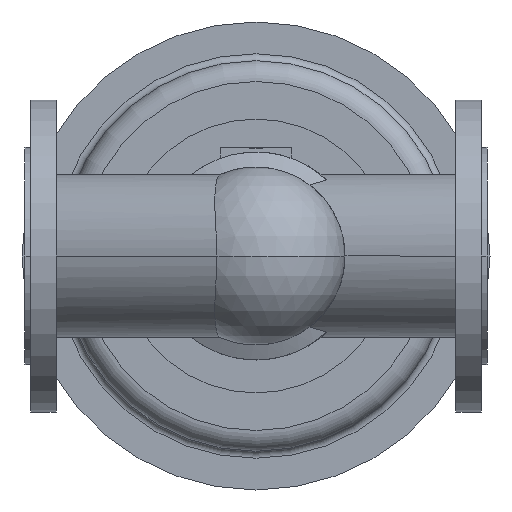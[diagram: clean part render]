
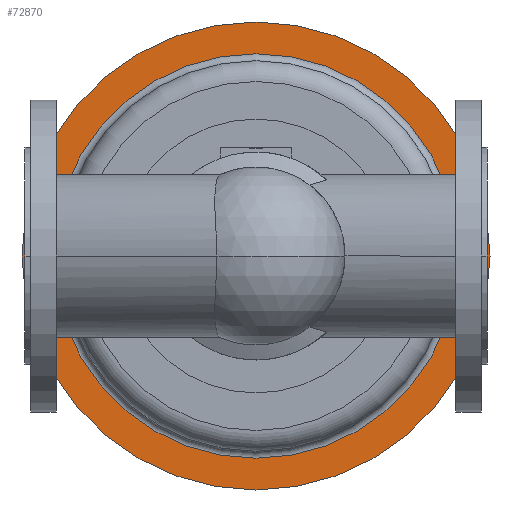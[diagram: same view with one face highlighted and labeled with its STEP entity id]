
A CAD part, front view. The second image highlights one B-rep face of the part: STEP entity #72870.
In plain terms, the highlighted planar face has unit normal (0, -1, 0).
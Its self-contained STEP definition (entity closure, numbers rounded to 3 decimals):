
#57340=CARTESIAN_POINT('',(-2.5,950.2,0.));
#57350=VERTEX_POINT('',#57340);
#57380=CARTESIAN_POINT('',(200.,950.2,0.));
#57390=DIRECTION('',(0.,1.,0.));
#57400=DIRECTION('',(1.,0.,0.));
#57410=AXIS2_PLACEMENT_3D('',#57380,#57390,#57400);
#57420=CIRCLE('',#57410,202.5);
#57430=CARTESIAN_POINT('',(402.5,950.2,0.));
#57440=VERTEX_POINT('',#57430);
#57450=EDGE_CURVE('',#57440,#57350,#57420,.T.);
#57840=CARTESIAN_POINT('',(375.,950.2,0.));
#57850=VERTEX_POINT('',#57840);
#57880=CARTESIAN_POINT('',(200.,950.2,0.));
#57890=DIRECTION('',(0.,1.,0.));
#57900=DIRECTION('',(1.,0.,0.));
#57910=AXIS2_PLACEMENT_3D('',#57880,#57890,#57900);
#57920=CIRCLE('',#57910,175.);
#57930=CARTESIAN_POINT('',(25.,950.2,0.));
#57940=VERTEX_POINT('',#57930);
#57950=EDGE_CURVE('',#57850,#57940,#57920,.T.);
#72720=CARTESIAN_POINT('',(388.75,950.2,0.));
#72730=DIRECTION('',(0.,-1.,0.));
#72740=DIRECTION('',(-1.,0.,0.));
#72750=AXIS2_PLACEMENT_3D('',#72720,#72730,#72740);
#72760=PLANE('',#72750);
#72770=EDGE_CURVE('',#57350,#57440,#57420,.T.);
#72780=ORIENTED_EDGE('',*,*,#72770,.F.);
#72790=ORIENTED_EDGE('',*,*,#57450,.F.);
#72800=EDGE_LOOP('',(#72790,#72780));
#72810=FACE_OUTER_BOUND('',#72800,.T.);
#72820=ORIENTED_EDGE('',*,*,#57950,.T.);
#72830=EDGE_CURVE('',#57940,#57850,#57920,.T.);
#72840=ORIENTED_EDGE('',*,*,#72830,.T.);
#72850=EDGE_LOOP('',(#72840,#72820));
#72860=FACE_BOUND('',#72850,.T.);
#72870=ADVANCED_FACE('',(#72810,#72860),#72760,.T.);
